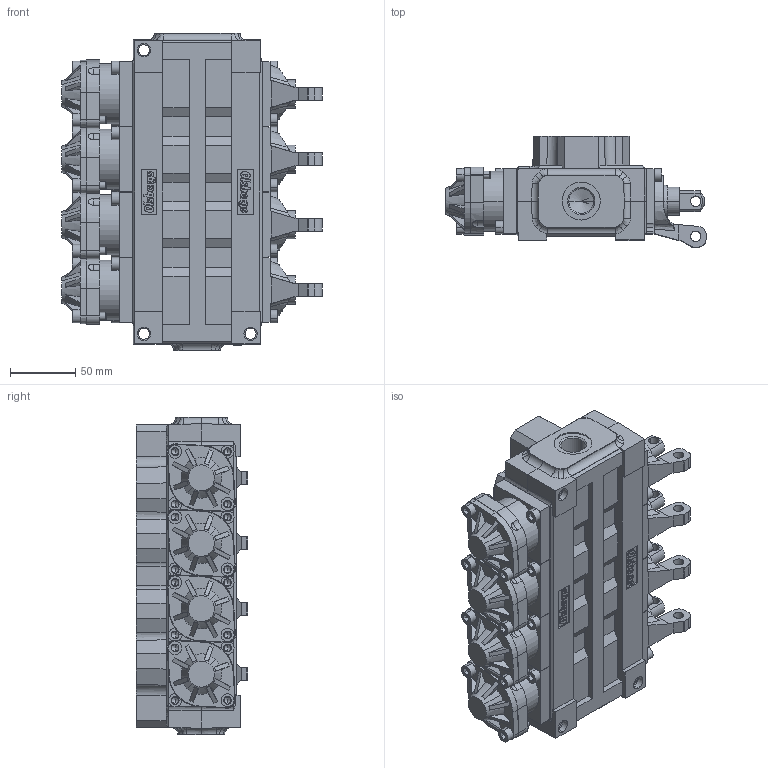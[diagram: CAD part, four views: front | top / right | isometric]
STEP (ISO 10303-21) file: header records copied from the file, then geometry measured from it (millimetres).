
FILE_DESCRIPTION (( 'STEP AP203' ), '1' );
FILE_NAME ('S-9801.STEP', '2018-05-21T11:34:12', ( '' ), ( '' ), 'SwSTEP 2.0', 'SolidWorks 2018', '' );
FILE_SCHEMA (( 'CONFIG_CONTROL_DESIGN' ));
Products named in the file (1): S-9801
Bounding box: 200 x 85.69 x 244 mm (x, y, z)
Volume: 2027866.3 mm3; surface area: 268990.1 mm2
Topology: 44 solids, 44 shells, 2214 faces, 5754 edges, 3708 vertices
Faces by surface type: plane 1042, bspline 497, cone 343, cylinder 324, sphere 8
Entity records: 83377 total; most frequent: CARTESIAN_POINT 34096, ORIENTED_EDGE 11364, DIRECTION 8097, EDGE_CURVE 5682, VERTEX_POINT 3708, LINE 2723, VECTOR 2723, AXIS2_PLACEMENT_3D 2687
